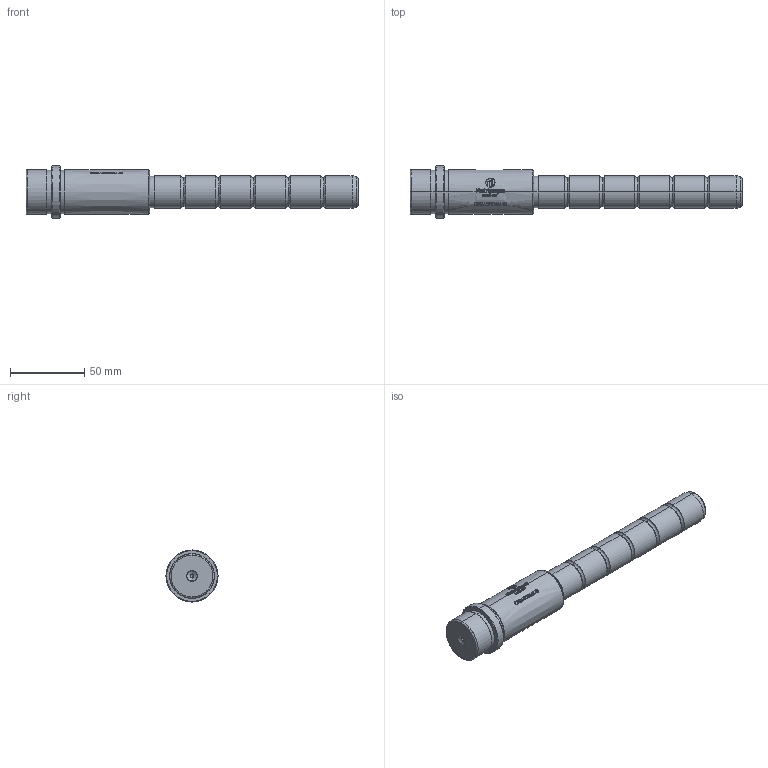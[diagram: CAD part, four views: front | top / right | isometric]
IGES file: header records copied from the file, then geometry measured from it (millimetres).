
Start section: SolidWorks IGES file using analytic representation for surfaces
Global section: file name: D:\1.TRIVECTOR\Clientes\MATRIPEÇAS\PEÇAS_CATALOGO_SITE\5.CFGM - COLUNA PLACA FLUTUANTE GUIADA E31 (CATÁLOGO)\CFGM22066140.IGS; native system: SolidWorks 2024; preprocessor: SolidWorks 2024; author: Angela Maschio; date: 260908.151913; units: millimetre
Bounding box: 223 x 35 x 35 mm (x, y, z)
Surface area: 20083.6 mm2 (no closed solid volume)
Topology: 0 solids, 0 shells, 542 faces, 5648 edges, 5644 vertices
Faces by surface type: bspline 430, revolution 112
